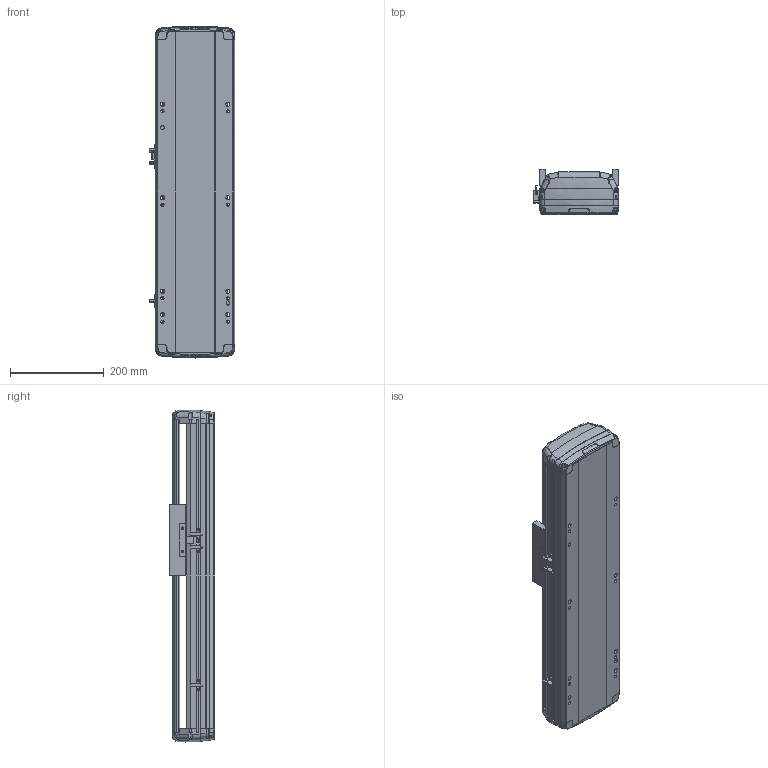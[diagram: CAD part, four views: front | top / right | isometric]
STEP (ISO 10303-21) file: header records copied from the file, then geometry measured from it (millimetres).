
FILE_DESCRIPTION (( 'STEP AP214' ), '1' );
FILE_NAME ('RTH17-XX-300-B-M40-C4.STEP', '2025-10-24T08:31:36', ( '' ), ( '' ), 'SwSTEP 2.0', 'SolidWorks 2018', '' );
FILE_SCHEMA (( 'AUTOMOTIVE_DESIGN' ));
Length unit declared in the file: millimetre
Products named in the file (7): N_RTH-L-012 感应片(外置)^RTH17-XX-XX-B-M40-C4（方程式）; RTH17-XX-300-B-M40-C4; N_RTH17-M-007上盖^RTH17-XX-XX-B-M40-C4（方程式）; N_OMRON EE-SX672 換覜ん^RTH17-XX-XX-B-M40-C4ㄗ源最宒ㄘ; N_RTH17-GY-001P^RTH17-XX-XX-B-M40-C4（方程式）; N_RTH17-E-004丝杆螺母连接座^RTH17-XX-XX-B-M40-C4（方程式）; N_RTH17-M-011底座^RTH17-XX-XX-B-M40-C4（方程式）
Assembly tree (9 placements, depth 2):
  RTH17-XX-300-B-M40-C4
    N_RTH17-M-011底座^RTH17-XX-XX-B-M40-C4（方程式）
    N_RTH17-M-007上盖^RTH17-XX-XX-B-M40-C4（方程式）
    N_OMRON EE-SX672 換覜ん^RTH17-XX-XX-B-M40-C4ㄗ源最宒ㄘ  x3
    N_RTH-L-012 感应片(外置)^RTH17-XX-XX-B-M40-C4（方程式）
    N_RTH17-E-004丝杆螺母连接座^RTH17-XX-XX-B-M40-C4（方程式）
    N_RTH17-GY-001P^RTH17-XX-XX-B-M40-C4（方程式）  x2
Bounding box: 183.5 x 97 x 710.04 mm (x, y, z)
Volume: 5405924.2 mm3; surface area: 801011.8 mm2
Topology: 7 solids, 11 shells, 1704 faces, 4772 edges, 3098 vertices
Faces by surface type: plane 807, cylinder 431, bspline 420, cone 28, torus 18
Entity records: 39510 total; most frequent: CARTESIAN_POINT 16535, ORIENTED_EDGE 5048, DIRECTION 3976, EDGE_CURVE 2528, VERTEX_POINT 1652, LINE 1400, VECTOR 1400, AXIS2_PLACEMENT_3D 1288
